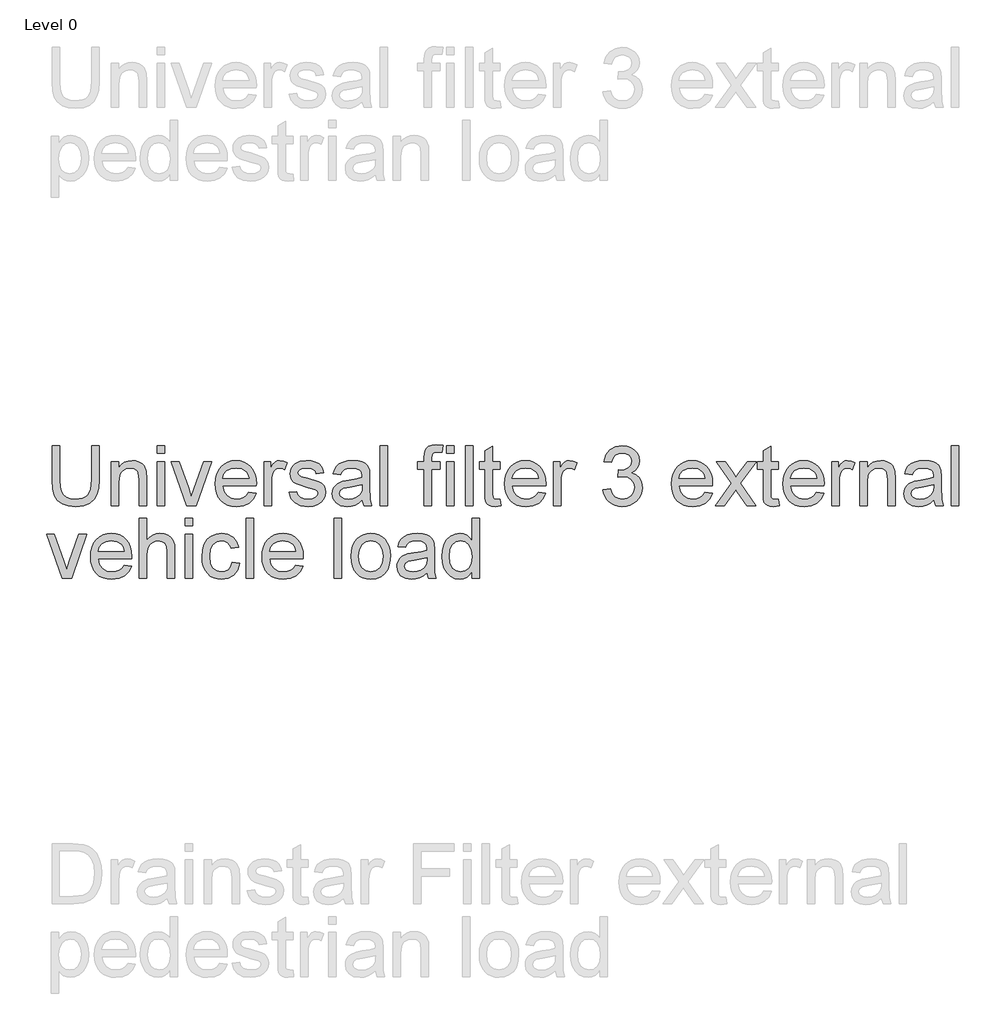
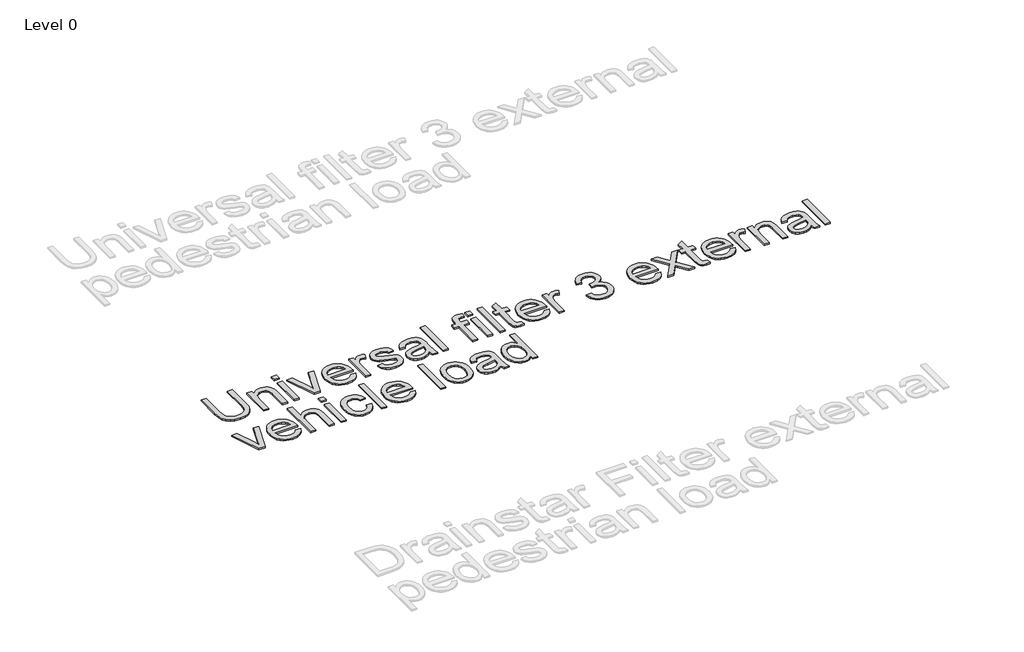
# One storey, part 3 of 10: 1 proxy.
"""IFC4 building model written with IfcOpenShell, lengths in millimetres."""

import ifcopenshell
import ifcopenshell.guid

model = None  # the IFC model being written
_history = None  # IfcOwnerHistory: only IFC2X3 demands one
_inside = {}  # id of a spatial element -> (the spatial element, [elements in it])
_under = {}  # id of a project, library or spatial element -> (it, [spatial elements below it])
_declared = {}  # id of a project -> (the project, [libraries it declares])
_typed = {}  # id of a type object -> (the type object, [elements of that type])
_made_of = {}  # id of a material, layer set ... -> (it, [elements and type objects made of it])


def new_model(schema):
    """Start an empty IFC model of exactly this schema.

    Asked for "IFC4X3", IfcOpenShell would pick the latest addendum, in which some entities
    have other attributes; the version numbers below select the first issue.
    IFC2X3 requires an IfcOwnerHistory on every rooted entity: one is made here for all.
    """
    global model, _history
    if schema == "IFC4X3":
        model = ifcopenshell.file(schema_version=(4, 3, 0, 0))
    else:
        model = ifcopenshell.file(schema=schema)
    _inside.clear()
    _under.clear()
    _declared.clear()
    _typed.clear()
    _made_of.clear()
    _history = None
    if model.schema == "IFC2X3":
        org = make("IfcOrganization", Name="unknown")
        user = make(
            "IfcPersonAndOrganization",
            ThePerson=make("IfcPerson", FamilyName="unknown"),
            TheOrganization=org,
        )
        app = make(
            "IfcApplication",
            ApplicationDeveloper=org,
            Version="unknown",
            ApplicationFullName="unknown",
            ApplicationIdentifier="unknown",
        )
        _history = make(
            "IfcOwnerHistory",
            OwningUser=user,
            OwningApplication=app,
            ChangeAction="ADDED",
            CreationDate=0,
        )
    return model


def make(cls, **values):
    """One entity of the class cls with the attributes given. An attribute that is None is left unset."""
    return model.create_entity(
        cls, **{name: value for name, value in values.items() if value is not None}
    )


def rooted(cls, **values):
    """An entity with a GlobalId (a new one), such as an element, a storey or a relation."""
    return make(cls, GlobalId=ifcopenshell.guid.new(), OwnerHistory=_history, **values)


def si_unit(unit_type, name, prefix=None):
    """IfcSIUnit, for example si_unit("LENGTHUNIT", "METRE", prefix="MILLI")."""
    return make("IfcSIUnit", UnitType=unit_type, Prefix=prefix, Name=name)


def assignment(units):
    """IfcUnitAssignment: the units of a project."""
    return None if units is None else make("IfcUnitAssignment", Units=units)


def point(xyz):
    """IfcCartesianPoint."""
    return None if xyz is None else make("IfcCartesianPoint", Coordinates=xyz)


def direction(xyz):
    """IfcDirection."""
    return None if xyz is None else make("IfcDirection", DirectionRatios=xyz)


def frame(location, z_axis=None, x_axis=None):
    """IfcAxis2Placement3D, a coordinate frame: its origin and axes. An axis left out is left unset."""
    return make(
        "IfcAxis2Placement3D",
        Location=point(location),
        Axis=direction(z_axis),
        RefDirection=direction(x_axis),
    )


def origin():
    """The frame at (0, 0, 0) with its axes left unset."""
    return frame((0.0, 0.0, 0.0))


def origin_with_axes():
    """The frame at (0, 0, 0) with the z axis (0, 0, 1) and the x axis (1, 0, 0) written out."""
    return frame((0.0, 0.0, 0.0), z_axis=(0.0, 0.0, 1.0), x_axis=(1.0, 0.0, 0.0))


def place(relative_to, where):
    """IfcLocalPlacement: puts the frame where relative to a parent placement (None: the world)."""
    return make(
        "IfcLocalPlacement", PlacementRelTo=relative_to, RelativePlacement=where
    )


def context(
    kind, dimensions, precision=None, world=None, true_north=None, identifier=None
):
    """IfcGeometricRepresentationContext, for example the 3D "Model" context."""
    return make(
        "IfcGeometricRepresentationContext",
        ContextIdentifier=identifier,
        ContextType=kind,
        CoordinateSpaceDimension=dimensions,
        Precision=precision,
        WorldCoordinateSystem=world,
        TrueNorth=true_north,
    )


def project(units=None, contexts=None):
    """IfcProject with its units and contexts."""
    return rooted(
        "IfcProject",
        Name="project",
        RepresentationContexts=contexts,
        UnitsInContext=assignment(units),
    )


def spatial(cls, under=None, at=None, **own):
    """A site, building, storey or space (cls), placed at a placement, below another one or the project."""
    s = rooted(cls, ObjectPlacement=at, **own)
    if under is not None:
        _under.setdefault(under.id(), (under, []))[1].append(s)
    return s


def polyline(points):
    """IfcPolyline through the points."""
    return make("IfcPolyline", Points=[point(p) for p in points])


def outline(outer, holes=None, kind="AREA"):
    """IfcArbitraryClosedProfileDef: a profile drawn as a closed curve; with holes, ...WithVoids."""
    if holes is None:
        return make("IfcArbitraryClosedProfileDef", ProfileType=kind, OuterCurve=outer)
    return make(
        "IfcArbitraryProfileDefWithVoids",
        ProfileType=kind,
        OuterCurve=outer,
        InnerCurves=holes,
    )


def extrude(swept, where, along, depth):
    """IfcExtrudedAreaSolid: the profile swept, set in the frame where, extruded along a direction by depth."""
    return make(
        "IfcExtrudedAreaSolid",
        SweptArea=swept,
        Position=where,
        ExtrudedDirection=direction(along),
        Depth=depth,
    )


def shape(context_of_items, identifier, shape_type, items):
    """IfcShapeRepresentation: the items that make up one representation, for example the "Body"."""
    return make(
        "IfcShapeRepresentation",
        ContextOfItems=context_of_items,
        RepresentationIdentifier=identifier,
        RepresentationType=shape_type,
        Items=items,
    )


def made_of(thing, what):
    """Note that an element or type object is made of a material, layer set ...; save() writes the relation."""
    if what is not None:
        _made_of.setdefault(what.id(), (what, []))[1].append(thing)
    return thing


def element(
    cls,
    number,
    at=None,
    inside=None,
    cuts=None,
    type_object=None,
    material=None,
    context=None,
    identifier="Body",
    shape_type=None,
    held_by="IfcProductDefinitionShape",
    body=None,
    shapes=None,
    **own,
):
    """One element of the class cls, such as IfcWall. Its Tag is "e" and its number.

    at: its placement. inside: the storey or other place that contains it. cuts: it is an
    opening in that element (IfcRelVoidsElement). A single representation is given by context,
    identifier, shape_type and body (its items); several are given by shapes. held_by: the class
    of the entity that holds the representations. save() writes the other relations.
    """
    e = rooted(cls, Tag="e%d" % number, ObjectPlacement=at, **own)
    if body is not None:
        shapes = [shape(context, identifier, shape_type, body)]
    if shapes is not None:
        e.Representation = make(held_by, Representations=shapes)
    if inside is not None:
        _inside.setdefault(inside.id(), (inside, []))[1].append(e)
    if cuts is not None:
        rooted(
            "IfcRelVoidsElement", RelatingBuildingElement=cuts, RelatedOpeningElement=e
        )
    if type_object is not None:
        _typed.setdefault(type_object.id(), (type_object, []))[1].append(e)
    return made_of(e, material)


def aggregate(whole, parts):
    """IfcRelAggregates: a whole, such as a stair, and the parts it consists of."""
    return rooted("IfcRelAggregates", RelatingObject=whole, RelatedObjects=parts)


def save(model, path):
    """Write the relations noted so far, then the file.

    IfcRelAggregates (storeys below a building ...), IfcRelContainedInSpatialStructure (elements
    in a storey), IfcRelDefinesByType, IfcRelAssociatesMaterial and IfcRelDeclares: one each for
    every whole, place, type object, material and project.
    """
    for whole, parts in _under.values():
        aggregate(whole, parts)
    for where, things in _inside.values():
        rooted(
            "IfcRelContainedInSpatialStructure",
            RelatedElements=things,
            RelatingStructure=where,
        )
    for kind, things in _typed.values():
        rooted("IfcRelDefinesByType", RelatedObjects=things, RelatingType=kind)
    for what, things in _made_of.values():
        rooted("IfcRelAssociatesMaterial", RelatedObjects=things, RelatingMaterial=what)
    for by, libraries in _declared.values():
        rooted("IfcRelDeclares", RelatingContext=by, RelatedDefinitions=libraries)
    model.write(path)


model = new_model("IFC4")

# Units and contexts
model_context = context("Model", 3, world=origin())
ifc_project = project(units=[si_unit("LENGTHUNIT", "METRE", prefix="MILLI")], contexts=[model_context])

# Site, building, storey
site = spatial("IfcSite", under=ifc_project)
building = spatial("IfcBuilding", under=site)
storey = spatial("IfcBuildingStorey", under=building, Name="Level 0", Elevation=0.0)

# Proxy
placement = place(None, origin())
element("IfcBuildingElementProxy", 1, Name="300mm Arial", ObjectType="300mm Arial", at=placement, inside=storey, context=model_context, shape_type="SweptSolid", body=[
    extrude(outline(polyline([(-15184.5419373, 4728.4409706), (-15146.870821, 4728.4409706), (-15146.870821, 4554.5799397), (-15149.4276009, 4513.8645999), (-15157.0979405, 4482.5118569), (-15171.4269442, 4458.3236157), (-15193.9597164, 4439.1017814), (-15224.7514394, 4426.5478084), (-15263.8572955, 4422.3631507), (-15302.1078259, 4426.0051824), (-15332.6880168, 4436.9312777), (-15355.6070651, 4454.7643574), (-15370.8741679, 4479.1273425), (-15379.4550154, 4511.8044607), (-15382.3152979, 4554.5799397), (-15382.3152979, 4728.4409706), (-15344.6441816, 4728.4409706), (-15344.6441816, 4555.9043149), (-15342.7863776, 4522.0499743), (-15337.2129653, 4498.4779355), (-15327.1146046, 4482.1531719), (-15311.6819549, 4470.0406572), (-15291.5588097, 4462.5358645), (-15267.3889627, 4460.034267), (-15229.0740529, 4464.9822798), (-15214.7312536, 4471.1672958), (-15203.5982247, 4479.8263183), (-15195.261099, 4492.0032123), (-15189.3060092, 4508.7418431), (-15184.5419373, 4555.9043149), (-15184.5419373, 4728.4409706)])), origin_with_axes(), (0.0, 0.0, 1.0), 10.0),
    extrude(outline(polyline([(-15085.655257, 4427.0720402), (-15085.655257, 4648.3898485), (-15047.9841407, 4648.3898485), (-15047.9841407, 4617.4877609), (-15034.8967388, 4633.0675634), (-15019.1789805, 4644.1959938), (-15000.830866, 4650.873052), (-14979.8523952, 4653.098738), (-14961.2835515, 4651.3053133), (-14944.2782063, 4645.9250391), (-14930.0963554, 4637.6293001), (-14919.9979946, 4627.089481), (-14908.7040174, 4599.3879667), (-14906.7174546, 4562.9676492), (-14906.7174546, 4427.0720402), (-14944.3885709, 4427.0720402), (-14944.3885709, 4557.8908777), (-14948.7295784, 4591.2209864), (-14954.735252, 4601.1446033), (-14964.0702576, 4608.842534), (-14976.0356195, 4613.7813498), (-14989.9323619, 4615.4276217), (-15011.9960846, 4611.7304077), (-15030.8040516, 4600.6387655), (-15038.3203406, 4591.5842699), (-15043.6891184, 4579.2096393), (-15047.9841407, 4544.4999731), (-15047.9841407, 4427.0720402), (-15085.655257, 4427.0720402)])), origin_with_axes(), (0.0, 0.0, 1.0), 10.0),
    extrude(outline(polyline([(-14854.9196697, 4690.7698543), (-14854.9196697, 4728.4409706), (-14817.2485534, 4728.4409706), (-14817.2485534, 4690.7698543), (-14854.9196697, 4690.7698543)])), origin_with_axes(), (0.0, 0.0, 1.0), 10.0),
    extrude(outline(polyline([(-14854.9196697, 4427.0720402), (-14854.9196697, 4648.3898485), (-14817.2485534, 4648.3898485), (-14817.2485534, 4427.0720402), (-14854.9196697, 4427.0720402)])), origin_with_axes(), (0.0, 0.0, 1.0), 10.0),
    extrude(outline(polyline([(-14706.4424964, 4427.0720402), (-14784.2863266, 4648.3898485), (-14744.4079183, 4648.3898485), (-14697.2454465, 4515.8051774), (-14683.0452015, 4471.2178796), (-14669.1392621, 4513.3035799), (-14621.6824847, 4648.3898485), (-14581.8040764, 4648.3898485), (-14658.6914134, 4427.0720402), (-14706.4424964, 4427.0720402)])), origin_with_axes(), (0.0, 0.0, 1.0), 10.0),
    extrude(outline(polyline([(-14393.8899533, 4492.9964937), (-14356.954601, 4488.2876042), (-14370.2627322, 4460.4573313), (-14391.4987203, 4439.6536044), (-14420.1843189, 4426.6857641), (-14455.8412813, 4422.3631507), (-14479.2155836, 4424.2278525), (-14500.042303, 4429.8219581), (-14518.3214397, 4439.1454674), (-14534.0529935, 4452.1983805), (-14546.7035356, 4468.6174138), (-14555.7396371, 4488.0392838), (-14561.161298, 4510.4639907), (-14562.9685183, 4535.8915344), (-14561.1429039, 4562.1813015), (-14555.6660607, 4585.3532686), (-14546.5379887, 4605.4074359), (-14533.7586879, 4622.3438032), (-14518.0685208, 4635.7990872), (-14500.2078499, 4645.4100043), (-14480.1766753, 4651.1765546), (-14457.9749969, 4653.098738), (-14436.4883891, 4651.1811531), (-14417.057322, 4645.4283984), (-14399.6817955, 4635.8404739), (-14384.3618096, 4622.4173796), (-14371.8561211, 4605.5178005), (-14362.9234864, 4585.5004214), (-14357.5639055, 4562.3652424), (-14355.7773786, 4536.1122636), (-14355.9981078, 4525.9587205), (-14525.297402, 4525.9587205), (-14518.7766936, 4497.7605656), (-14503.6291525, 4477.0304151), (-14481.7677649, 4464.283304), (-14455.1055173, 4460.034267), (-14435.0559486, 4462.0024356), (-14418.170165, 4467.9069417), (-14404.4481666, 4478.115667), (-14393.8899533, 4492.9964937)]), holes=[polyline([(-14525.297402, 4563.6298368), (-14393.4484949, 4563.6298368), (-14398.5436605, 4583.5322527), (-14408.5316567, 4597.769286), (-14430.4942118, 4611.0130378), (-14458.1221497, 4615.4276217), (-14483.5152044, 4611.9051516), (-14504.5120693, 4601.3377413), (-14519.1077874, 4584.865825), (-14525.297402, 4563.6298368)])]), origin_with_axes(), (0.0, 0.0, 1.0), 10.0),
    extrude(outline(polyline([(-14318.1062623, 4427.0720402), (-14318.1062623, 4648.3898485), (-14285.1440355, 4648.3898485), (-14285.1440355, 4615.6483509), (-14272.9671415, 4634.6310619), (-14261.7467406, 4645.8146745), (-14250.4895516, 4651.2777222), (-14238.2022929, 4653.098738), (-14219.4403112, 4650.1924703), (-14200.3840238, 4641.473667), (-14212.9655881, 4607.7020998), (-14226.2093399, 4613.4962413), (-14239.4530917, 4615.4276217), (-14250.7010837, 4613.5698177), (-14260.7534593, 4607.9964054), (-14268.8744543, 4599.1304493), (-14274.3283049, 4587.3950137), (-14278.9084357, 4566.3521636), (-14280.435146, 4543.3963271), (-14280.435146, 4427.0720402), (-14318.1062623, 4427.0720402)])), origin_with_axes(), (0.0, 0.0, 1.0), 10.0),
    extrude(outline(polyline([(-14190.9662448, 4492.9964937), (-14153.2951285, 4497.7053833), (-14147.3538342, 4481.5921519), (-14135.8575219, 4469.7463516), (-14118.732615, 4462.4622881), (-14095.9055372, 4460.034267), (-14073.3543709, 4462.259953), (-14057.4986569, 4468.9370112), (-14048.117666, 4478.6123077), (-14044.9906691, 4489.8327086), (-14048.1360601, 4499.4344286), (-14057.5722333, 4506.7552804), (-14096.3469956, 4517.4974346), (-14153.0743993, 4535.9283226), (-14167.4309941, 4545.1897518), (-14177.8328575, 4557.4494193), (-14184.1512308, 4571.9255758), (-14186.2573552, 4587.8364721), (-14184.5650981, 4602.4321902), (-14179.4883265, 4615.9058683), (-14171.4868931, 4627.7240774), (-14161.0206504, 4637.3533886), (-14137.0715325, 4648.5002131), (-14104.6611287, 4653.098738), (-14080.1417937, 4651.250131), (-14058.8230321, 4645.7043099), (-14041.6797311, 4637.0039007), (-14029.6867781, 4625.6915294), (-14021.740527, 4610.9302643), (-14016.7373319, 4591.883174), (-14054.4084482, 4587.1742845), (-14059.1633229, 4599.0292818), (-14068.571905, 4607.9596172), (-14082.7261647, 4613.5606206), (-14101.7180727, 4615.4276217), (-14123.3495341, 4613.6433941), (-14137.7705083, 4608.290711), (-14145.8823063, 4600.5651891), (-14148.5862389, 4591.6624448), (-14144.0980786, 4580.6995614), (-14130.0449864, 4572.3854283), (-14097.5977944, 4564.3656008), (-14042.3051305, 4546.6336886), (-14027.7002153, 4538.1540086), (-14016.6269673, 4526.5473317), (-14009.6464064, 4511.7768696), (-14007.3195528, 4493.8058341), (-14010.0510766, 4475.2277934), (-14018.245648, 4457.7533986), (-14031.5905674, 4442.7530102), (-14049.773135, 4431.5969887), (-14071.7356901, 4424.6716102), (-14096.420572, 4422.3631507), (-14134.404388, 4426.8145228), (-14162.1242963, 4440.1686392), (-14180.6287607, 4462.2783471), (-14190.9662448, 4492.9964937)])), origin_with_axes(), (0.0, 0.0, 1.0), 10.0),
    extrude(outline(polyline([(-13823.6728608, 4455.3253774), (-13841.6714874, 4439.8927277), (-13860.2035429, 4429.794367), (-13879.6920916, 4424.2209547), (-13900.5601978, 4422.3631507), (-13932.0416995, 4426.8329169), (-13955.2642505, 4440.2422156), (-13969.5840571, 4460.6044841), (-13974.357326, 4485.9331594), (-13972.5547042, 4501.5497501), (-13967.1468389, 4515.731601), (-13958.8051147, 4527.8717069), (-13948.2009161, 4537.3630624), (-13921.8237771, 4549.7238974), (-13889.2294323, 4555.3892801), (-13850.7121874, 4561.3489684), (-13823.89359, 4568.3387263), (-13823.6728608, 4576.7264358), (-13826.2664288, 4593.538643), (-13834.047133, 4604.5383147), (-13851.4479514, 4612.705295), (-13875.6913749, 4615.4276217), (-13898.1321766, 4613.6158029), (-13913.8039496, 4608.1803464), (-13924.4909216, 4598.1279709), (-13931.9773202, 4582.465395), (-13969.6484365, 4587.1742845), (-13963.109334, 4607.7756762), (-13953.3512641, 4623.962484), (-13939.4637188, 4636.3417132), (-13920.5361901, 4645.5203689), (-13897.3872156, 4651.2041458), (-13870.8353326, 4653.098738), (-13845.3687014, 4651.424875), (-13825.181177, 4646.4032857), (-13809.9600594, 4638.8525078), (-13799.3926491, 4629.5910785), (-13792.3844971, 4618.1407514), (-13787.8411545, 4604.0232799), (-13786.0017445, 4571.0610531), (-13786.0017445, 4524.1928869), (-13784.0887581, 4458.74668), (-13776.5839654, 4427.0720402), (-13814.2550817, 4427.0720402), (-13823.6728608, 4455.3253774)]), holes=[polyline([(-13823.6728608, 4530.66761), (-13884.4469664, 4519.1161154), (-13916.8573702, 4513.0092743), (-13931.5358618, 4503.0764604), (-13936.6862097, 4488.5819098), (-13933.8811095, 4477.379903), (-13925.4658088, 4468.2012473), (-13911.6242488, 4462.076012), (-13892.5403703, 4460.034267), (-13872.3068605, 4462.2875442), (-13854.4277956, 4469.0473758), (-13839.933245, 4479.0077809), (-13829.8532783, 4490.8627782), (-13825.3835121, 4503.0764604), (-13823.89359, 4519.9990322), (-13823.6728608, 4530.66761)])]), origin_with_axes(), (0.0, 0.0, 1.0), 10.0),
    extrude(outline(polyline([(-13734.2039596, 4427.0720402), (-13734.2039596, 4728.4409706), (-13696.5328432, 4728.4409706), (-13696.5328432, 4427.0720402), (-13734.2039596, 4427.0720402)])), origin_with_axes(), (0.0, 0.0, 1.0), 10.0),
    extrude(outline(polyline([(-13512.8861513, 4427.0720402), (-13512.8861513, 4610.7187322), (-13545.848378, 4610.7187322), (-13545.848378, 4648.3898485), (-13512.8861513, 4648.3898485), (-13512.8861513, 4670.6834974), (-13508.9130257, 4702.1006198), (-13501.3346566, 4714.6270017), (-13489.6360092, 4724.5414215), (-13473.2652604, 4730.9977505), (-13451.6705873, 4733.1498602), (-13417.3104089, 4729.0295818), (-13422.8286388, 4693.7129103), (-13444.5336766, 4695.4787439), (-13458.8534832, 4693.9152454), (-13468.2620652, 4689.22475), (-13473.4767925, 4680.2668234), (-13475.215035, 4665.9010315), (-13475.215035, 4648.3898485), (-13432.8350291, 4648.3898485), (-13432.8350291, 4610.7187322), (-13475.215035, 4610.7187322), (-13475.215035, 4427.0720402), (-13512.8861513, 4427.0720402)])), origin_with_axes(), (0.0, 0.0, 1.0), 10.0),
    extrude(outline(polyline([(-13399.8728023, 4427.0720402), (-13399.8728023, 4648.3898485), (-13362.201686, 4648.3898485), (-13362.201686, 4427.0720402), (-13399.8728023, 4427.0720402)])), origin_with_axes(), (0.0, 0.0, 1.0), 10.0),
    extrude(outline(polyline([(-13399.8728023, 4690.7698543), (-13399.8728023, 4728.4409706), (-13362.201686, 4728.4409706), (-13362.201686, 4690.7698543), (-13399.8728023, 4690.7698543)])), origin_with_axes(), (0.0, 0.0, 1.0), 10.0),
    extrude(outline(polyline([(-13305.6950116, 4427.0720402), (-13305.6950116, 4728.4409706), (-13268.0238953, 4728.4409706), (-13268.0238953, 4427.0720402), (-13305.6950116, 4427.0720402)])), origin_with_axes(), (0.0, 0.0, 1.0), 10.0),
    extrude(outline(polyline([(-13131.4660987, 4458.4891626), (-13126.7572091, 4425.9683942), (-13154.93697, 4422.3631507), (-13173.01837, 4423.9266491), (-13186.5012451, 4428.6171446), (-13196.0293888, 4435.8460258), (-13202.2465945, 4445.0246816), (-13205.6678971, 4460.7884251), (-13206.8083313, 4487.7725694), (-13206.8083313, 4610.7187322), (-13235.0616685, 4610.7187322), (-13235.0616685, 4648.3898485), (-13206.8083313, 4648.3898485), (-13206.8083313, 4702.1741962), (-13169.137215, 4724.3206923), (-13169.137215, 4648.3898485), (-13131.4660987, 4648.3898485), (-13131.4660987, 4610.7187322), (-13169.137215, 4610.7187322), (-13169.137215, 4488.8762154), (-13167.1506522, 4469.452046), (-13160.7127173, 4462.5726527), (-13147.8736356, 4460.034267), (-13131.4660987, 4458.4891626)])), origin_with_axes(), (0.0, 0.0, 1.0), 10.0),
    extrude(outline(polyline([(-12938.843086, 4492.9964937), (-12901.9077337, 4488.2876042), (-12915.2158648, 4460.4573313), (-12936.451853, 4439.6536044), (-12965.1374516, 4426.6857641), (-13000.794414, 4422.3631507), (-13024.1687162, 4424.2278525), (-13044.9954357, 4429.8219581), (-13063.2745723, 4439.1454674), (-13079.0061261, 4452.1983805), (-13091.6566683, 4468.6174138), (-13100.6927698, 4488.0392838), (-13106.1144307, 4510.4639907), (-13107.921651, 4535.8915344), (-13106.0960366, 4562.1813015), (-13100.6191934, 4585.3532686), (-13091.4911214, 4605.4074359), (-13078.7118205, 4622.3438032), (-13063.0216535, 4635.7990872), (-13045.1609826, 4645.4100043), (-13025.129808, 4651.1765546), (-13002.9281295, 4653.098738), (-12981.4415218, 4651.1811531), (-12962.0104546, 4645.4283984), (-12944.6349281, 4635.8404739), (-12929.3149423, 4622.4173796), (-12916.8092537, 4605.5178005), (-12907.876619, 4585.5004214), (-12902.5170382, 4562.3652424), (-12900.7305113, 4536.1122636), (-12900.9512405, 4525.9587205), (-13070.2505347, 4525.9587205), (-13063.7298263, 4497.7605656), (-13048.5822851, 4477.0304151), (-13026.7208976, 4464.283304), (-13000.05865, 4460.034267), (-12980.0090812, 4462.0024356), (-12963.1232977, 4467.9069417), (-12949.4012992, 4478.115667), (-12938.843086, 4492.9964937)]), holes=[polyline([(-13070.2505347, 4563.6298368), (-12938.4016276, 4563.6298368), (-12943.4967932, 4583.5322527), (-12953.4847894, 4597.769286), (-12975.4473445, 4611.0130378), (-13003.0752823, 4615.4276217), (-13028.4683371, 4611.9051516), (-13049.4652019, 4601.3377413), (-13064.0609201, 4584.865825), (-13070.2505347, 4563.6298368)])]), origin_with_axes(), (0.0, 0.0, 1.0), 10.0),
    extrude(outline(polyline([(-12863.059395, 4427.0720402), (-12863.059395, 4648.3898485), (-12830.0971682, 4648.3898485), (-12830.0971682, 4615.6483509), (-12817.9202742, 4634.6310619), (-12806.6998733, 4645.8146745), (-12795.4426843, 4651.2777222), (-12783.1554256, 4653.098738), (-12764.3934439, 4650.1924703), (-12745.3371565, 4641.473667), (-12757.9187208, 4607.7020998), (-12771.1624726, 4613.4962413), (-12784.4062244, 4615.4276217), (-12795.6542164, 4613.5698177), (-12805.7065919, 4607.9964054), (-12813.827587, 4599.1304493), (-12819.2814376, 4587.3950137), (-12823.8615684, 4566.3521636), (-12825.3882787, 4543.3963271), (-12825.3882787, 4427.0720402), (-12863.059395, 4427.0720402)])), origin_with_axes(), (0.0, 0.0, 1.0), 10.0),
    extrude(outline(polyline([(-12613.4882494, 4507.1231623), (-12575.8171331, 4511.8320519), (-12567.3834384, 4488.1588455), (-12555.0318004, 4472.1743728), (-12538.1552139, 4463.0692934), (-12516.1466735, 4460.034267), (-12490.3213575, 4464.2097276), (-12470.3821533, 4476.7361095), (-12457.6350422, 4495.4245149), (-12453.3860051, 4518.0860458), (-12457.598254, 4539.5979455), (-12470.2350005, 4557.0447491), (-12489.3648643, 4568.6054408), (-12513.0564648, 4572.4590047), (-12539.470392, 4568.3387263), (-12535.2765373, 4606.0098427), (-12529.2432726, 4605.5683843), (-12506.6737121, 4608.2723169), (-12486.4953847, 4616.3841149), (-12472.2583515, 4630.1061133), (-12467.5126738, 4649.6406473), (-12470.9523704, 4665.9102285), (-12481.2714604, 4679.1079951), (-12497.0168098, 4687.8543895), (-12516.7352847, 4690.7698543), (-12536.4905479, 4687.8267984), (-12552.6405674, 4678.9976305), (-12564.4311854, 4664.2823507), (-12571.1082436, 4643.680959), (-12608.7793599, 4648.3898485), (-12597.6877178, 4682.216598), (-12577.9508487, 4707.4716969), (-12550.9483103, 4723.1986522), (-12518.0596599, 4728.4409706), (-12494.3772565, 4725.8565996), (-12472.6262335, 4718.1034866), (-12454.287316, 4705.8714102), (-12440.8412291, 4689.8501494), (-12432.5914754, 4671.3916702), (-12429.8415575, 4651.8479393), (-12432.4535196, 4633.6377805), (-12440.2894061, 4617.1198789), (-12453.2388524, 4603.0483926), (-12471.1914937, 4592.1774796), (-12447.6102578, 4582.649336), (-12430.1358631, 4566.42574), (-12419.3201324, 4544.3896085), (-12415.7148888, 4517.4238582), (-12417.5175106, 4498.3123886), (-12422.9253759, 4480.7092351), (-12431.9384848, 4464.6143978), (-12444.5568373, 4450.0278767), (-12459.9297061, 4437.9245591), (-12477.2063643, 4429.2793322), (-12496.3868119, 4424.092196), (-12517.4710487, 4422.3631507), (-12536.5273361, 4423.8392772), (-12553.8913662, 4428.2676567), (-12569.5631392, 4435.6482892), (-12583.542655, 4445.9811747), (-12595.2642951, 4458.659308), (-12604.1624409, 4473.0756837), (-12610.2370923, 4489.2303018), (-12613.4882494, 4507.1231623)])), origin_with_axes(), (0.0, 0.0, 1.0), 10.0),
    extrude(outline(polyline([(-12100.6607482, 4492.9964937), (-12063.7253959, 4488.2876042), (-12077.033527, 4460.4573313), (-12098.2695152, 4439.6536044), (-12126.9551138, 4426.6857641), (-12162.6120762, 4422.3631507), (-12185.9863784, 4424.2278525), (-12206.8130979, 4429.8219581), (-12225.0922345, 4439.1454674), (-12240.8237883, 4452.1983805), (-12253.4743304, 4468.6174138), (-12262.510432, 4488.0392838), (-12267.9320929, 4510.4639907), (-12269.7393132, 4535.8915344), (-12267.9136988, 4562.1813015), (-12262.4368556, 4585.3532686), (-12253.3087835, 4605.4074359), (-12240.5294827, 4622.3438032), (-12224.8393156, 4635.7990872), (-12206.9786448, 4645.4100043), (-12186.9474701, 4651.1765546), (-12164.7457917, 4653.098738), (-12143.259184, 4651.1811531), (-12123.8281168, 4645.4283984), (-12106.4525903, 4635.8404739), (-12091.1326045, 4622.4173796), (-12078.6269159, 4605.5178005), (-12069.6942812, 4585.5004214), (-12064.3347004, 4562.3652424), (-12062.5481735, 4536.1122636), (-12062.7689027, 4525.9587205), (-12232.0681968, 4525.9587205), (-12225.5474885, 4497.7605656), (-12210.3999473, 4477.0304151), (-12188.5385598, 4464.283304), (-12161.8763122, 4460.034267), (-12141.8267434, 4462.0024356), (-12124.9409599, 4467.9069417), (-12111.2189614, 4478.115667), (-12100.6607482, 4492.9964937)]), holes=[polyline([(-12232.0681968, 4563.6298368), (-12100.2192898, 4563.6298368), (-12105.3144554, 4583.5322527), (-12115.3024516, 4597.769286), (-12137.2650067, 4611.0130378), (-12164.8929445, 4615.4276217), (-12190.2859992, 4611.9051516), (-12211.2828641, 4601.3377413), (-12225.8785823, 4584.865825), (-12232.0681968, 4563.6298368)])]), origin_with_axes(), (0.0, 0.0, 1.0), 10.0),
    extrude(outline(polyline([(-12048.4215049, 4427.0720402), (-11967.9289243, 4538.3195555), (-12043.7126153, 4648.3898485), (-11998.3895535, 4648.3898485), (-11961.8220832, 4595.4148412), (-11944.7523586, 4570.3988655), (-11929.9635024, 4590.8531045), (-11888.3192606, 4648.3898485), (-11842.9961988, 4648.3898485), (-11922.6058625, 4538.3195555), (-11845.9392547, 4427.0720402), (-11891.2623165, 4427.0720402), (-11937.3947187, 4493.9529869), (-11945.8560046, 4506.1666692), (-12003.0984431, 4427.0720402), (-12048.4215049, 4427.0720402)])), origin_with_axes(), (0.0, 0.0, 1.0), 10.0),
    extrude(outline(polyline([(-11732.9259058, 4458.4891626), (-11728.2170163, 4425.9683942), (-11756.3967771, 4422.3631507), (-11774.4781771, 4423.9266491), (-11787.9610523, 4428.6171446), (-11797.4891959, 4435.8460258), (-11803.7064017, 4445.0246816), (-11807.1277042, 4460.7884251), (-11808.2681384, 4487.7725694), (-11808.2681384, 4610.7187322), (-11836.5214756, 4610.7187322), (-11836.5214756, 4648.3898485), (-11808.2681384, 4648.3898485), (-11808.2681384, 4702.1741962), (-11770.5970221, 4724.3206923), (-11770.5970221, 4648.3898485), (-11732.9259058, 4648.3898485), (-11732.9259058, 4610.7187322), (-11770.5970221, 4610.7187322), (-11770.5970221, 4488.8762154), (-11768.6104593, 4469.452046), (-11762.1725244, 4462.5726527), (-11749.3334428, 4460.034267), (-11732.9259058, 4458.4891626)])), origin_with_axes(), (0.0, 0.0, 1.0), 10.0),
    extrude(outline(polyline([(-11540.3028931, 4492.9964937), (-11503.3675408, 4488.2876042), (-11516.675672, 4460.4573313), (-11537.9116602, 4439.6536044), (-11566.5972587, 4426.6857641), (-11602.2542211, 4422.3631507), (-11625.6285234, 4424.2278525), (-11646.4552428, 4429.8219581), (-11664.7343795, 4439.1454674), (-11680.4659333, 4452.1983805), (-11693.1164754, 4468.6174138), (-11702.1525769, 4488.0392838), (-11707.5742378, 4510.4639907), (-11709.3814581, 4535.8915344), (-11707.5558437, 4562.1813015), (-11702.0790005, 4585.3532686), (-11692.9509285, 4605.4074359), (-11680.1716277, 4622.3438032), (-11664.4814606, 4635.7990872), (-11646.6207897, 4645.4100043), (-11626.5896151, 4651.1765546), (-11604.3879367, 4653.098738), (-11582.9013289, 4651.1811531), (-11563.4702618, 4645.4283984), (-11546.0947353, 4635.8404739), (-11530.7747494, 4622.4173796), (-11518.2690609, 4605.5178005), (-11509.3364262, 4585.5004214), (-11503.9768454, 4562.3652424), (-11502.1903184, 4536.1122636), (-11502.4110476, 4525.9587205), (-11671.7103418, 4525.9587205), (-11665.1896334, 4497.7605656), (-11650.0420923, 4477.0304151), (-11628.1807047, 4464.283304), (-11601.5184571, 4460.034267), (-11581.4688884, 4462.0024356), (-11564.5831048, 4467.9069417), (-11550.8611064, 4478.115667), (-11540.3028931, 4492.9964937)]), holes=[polyline([(-11671.7103418, 4563.6298368), (-11539.8614347, 4563.6298368), (-11544.9566004, 4583.5322527), (-11554.9445965, 4597.769286), (-11576.9071516, 4611.0130378), (-11604.5350895, 4615.4276217), (-11629.9281442, 4611.9051516), (-11650.9250091, 4601.3377413), (-11665.5207272, 4584.865825), (-11671.7103418, 4563.6298368)])]), origin_with_axes(), (0.0, 0.0, 1.0), 10.0),
    extrude(outline(polyline([(-11464.5192021, 4427.0720402), (-11464.5192021, 4648.3898485), (-11431.5569753, 4648.3898485), (-11431.5569753, 4615.6483509), (-11419.3800813, 4634.6310619), (-11408.1596805, 4645.8146745), (-11396.9024914, 4651.2777222), (-11384.6152328, 4653.098738), (-11365.853251, 4650.1924703), (-11346.7969637, 4641.473667), (-11359.3785279, 4607.7020998), (-11372.6222797, 4613.4962413), (-11385.8660315, 4615.4276217), (-11397.1140235, 4613.5698177), (-11407.1663991, 4607.9964054), (-11415.2873941, 4599.1304493), (-11420.7412447, 4587.3950137), (-11425.3213755, 4566.3521636), (-11426.8480858, 4543.3963271), (-11426.8480858, 4427.0720402), (-11464.5192021, 4427.0720402)])), origin_with_axes(), (0.0, 0.0, 1.0), 10.0),
    extrude(outline(polyline([(-11323.252516, 4427.0720402), (-11323.252516, 4648.3898485), (-11285.5813997, 4648.3898485), (-11285.5813997, 4617.4877609), (-11272.4939977, 4633.0675634), (-11256.7762394, 4644.1959938), (-11238.4281249, 4650.873052), (-11217.4496542, 4653.098738), (-11198.8808104, 4651.3053133), (-11181.8754652, 4645.9250391), (-11167.6936143, 4637.6293001), (-11157.5952535, 4627.089481), (-11146.3012763, 4599.3879667), (-11144.3147135, 4562.9676492), (-11144.3147135, 4427.0720402), (-11181.9858298, 4427.0720402), (-11181.9858298, 4557.8908777), (-11186.3268374, 4591.2209864), (-11192.3325109, 4601.1446033), (-11201.6675166, 4608.842534), (-11213.6328785, 4613.7813498), (-11227.5296208, 4615.4276217), (-11249.5933435, 4611.7304077), (-11268.4013105, 4600.6387655), (-11275.9175995, 4591.5842699), (-11281.2863774, 4579.2096393), (-11285.5813997, 4544.4999731), (-11285.5813997, 4427.0720402), (-11323.252516, 4427.0720402)])), origin_with_axes(), (0.0, 0.0, 1.0), 10.0),
    extrude(outline(polyline([(-10951.2502424, 4455.3253774), (-10969.2488691, 4439.8927277), (-10987.7809246, 4429.794367), (-11007.2694733, 4424.2209547), (-11028.1375794, 4422.3631507), (-11059.6190812, 4426.8329169), (-11082.8416321, 4440.2422156), (-11097.1614388, 4460.6044841), (-11101.9347077, 4485.9331594), (-11100.1320859, 4501.5497501), (-11094.7242206, 4515.731601), (-11086.3824963, 4527.8717069), (-11075.7782978, 4537.3630624), (-11049.4011588, 4549.7238974), (-11016.806814, 4555.3892801), (-10978.2895691, 4561.3489684), (-10951.4709716, 4568.3387263), (-10951.2502424, 4576.7264358), (-10953.8438105, 4593.538643), (-10961.6245147, 4604.5383147), (-10979.0253331, 4612.705295), (-11003.2687566, 4615.4276217), (-11025.7095583, 4613.6158029), (-11041.3813313, 4608.1803464), (-11052.0683032, 4598.1279709), (-11059.5547018, 4582.465395), (-11097.2258181, 4587.1742845), (-11090.6867157, 4607.7756762), (-11080.9286457, 4623.962484), (-11067.0411004, 4636.3417132), (-11048.1135718, 4645.5203689), (-11024.9645972, 4651.2041458), (-10998.4127142, 4653.098738), (-10972.9460831, 4651.424875), (-10952.7585586, 4646.4032857), (-10937.5374411, 4638.8525078), (-10926.9700308, 4629.5910785), (-10919.9618788, 4618.1407514), (-10915.4185361, 4604.0232799), (-10913.5791261, 4571.0610531), (-10913.5791261, 4524.1928869), (-10911.6661398, 4458.74668), (-10904.1613471, 4427.0720402), (-10941.8324634, 4427.0720402), (-10951.2502424, 4455.3253774)]), holes=[polyline([(-10951.2502424, 4530.66761), (-11012.024348, 4519.1161154), (-11044.4347518, 4513.0092743), (-11059.1132434, 4503.0764604), (-11064.2635914, 4488.5819098), (-11061.4584911, 4477.379903), (-11053.0431905, 4468.2012473), (-11039.2016304, 4462.076012), (-11020.1177519, 4460.034267), (-10999.8842422, 4462.2875442), (-10982.0051772, 4469.0473758), (-10967.5106266, 4479.0077809), (-10957.43066, 4490.8627782), (-10952.9608937, 4503.0764604), (-10951.4709716, 4519.9990322), (-10951.2502424, 4530.66761)])]), origin_with_axes(), (0.0, 0.0, 1.0), 10.0),
    extrude(outline(polyline([(-10861.7813412, 4427.0720402), (-10861.7813412, 4728.4409706), (-10824.1102249, 4728.4409706), (-10824.1102249, 4427.0720402), (-10861.7813412, 4427.0720402)])), origin_with_axes(), (0.0, 0.0, 1.0), 10.0),
    extrude(outline(polyline([(-15332.724805, 4061.1475867), (-15410.5686352, 4282.465395), (-15370.6902269, 4282.465395), (-15323.5277551, 4149.8807239), (-15309.3275101, 4105.2934261), (-15295.4215707, 4147.3791263), (-15247.9647933, 4282.465395), (-15208.086385, 4282.465395), (-15284.973722, 4061.1475867), (-15332.724805, 4061.1475867)])), origin_with_axes(), (0.0, 0.0, 1.0), 10.0),
    extrude(outline(polyline([(-15020.1722619, 4127.0720402), (-14983.2369096, 4122.3631507), (-14996.5450408, 4094.5328777), (-15017.7810289, 4073.7291509), (-15046.4666275, 4060.7613106), (-15082.1235899, 4056.4386971), (-15105.4978922, 4058.303399), (-15126.3246116, 4063.8975046), (-15144.6037482, 4073.2210139), (-15160.3353021, 4086.2739269), (-15172.9858442, 4102.6929602), (-15182.0219457, 4122.1148303), (-15187.4436066, 4144.5395372), (-15189.2508269, 4169.9670808), (-15187.4252125, 4196.2568479), (-15181.9483693, 4219.4288151), (-15172.8202973, 4239.4829823), (-15160.0409965, 4256.4193497), (-15144.3508294, 4269.8746337), (-15126.4901585, 4279.4855508), (-15106.4589839, 4285.2521011), (-15084.2573055, 4287.1742845), (-15062.7706977, 4285.2566996), (-15043.3396305, 4279.5039449), (-15025.9641041, 4269.9160204), (-15010.6441182, 4256.4929261), (-14998.1384296, 4239.5933469), (-14989.205795, 4219.5759679), (-14983.8462141, 4196.4407889), (-14982.0596872, 4170.18781), (-14982.2804164, 4160.034267), (-15151.5797106, 4160.034267), (-15145.0590022, 4131.836112), (-15129.9114611, 4111.1059616), (-15108.0500735, 4098.3588505), (-15081.3878259, 4094.1098134), (-15061.3382572, 4096.0779821), (-15044.4524736, 4101.9824881), (-15030.7304752, 4112.1912135), (-15020.1722619, 4127.0720402)]), holes=[polyline([(-15151.5797106, 4197.7053833), (-15019.7308035, 4197.7053833), (-15024.8259691, 4217.6077992), (-15034.8139653, 4231.8448324), (-15056.7765204, 4245.0885843), (-15084.4044583, 4249.5031682), (-15109.797513, 4245.9806981), (-15130.7943778, 4235.4132878), (-15145.390096, 4218.9413714), (-15151.5797106, 4197.7053833)])]), origin_with_axes(), (0.0, 0.0, 1.0), 10.0),
    extrude(outline(polyline([(-14944.3885709, 4061.1475867), (-14944.3885709, 4362.5165171), (-14906.7174546, 4362.5165171), (-14906.7174546, 4251.7104602), (-14892.880493, 4267.2258833), (-14877.3420773, 4278.3083284), (-14860.1022073, 4284.9577955), (-14841.160883, 4287.1742845), (-14818.4073816, 4284.7554604), (-14798.8544536, 4277.498988), (-14783.4585921, 4265.9750845), (-14773.1762903, 4250.753967), (-14767.3821489, 4229.8398755), (-14765.4507684, 4201.2370504), (-14765.4507684, 4061.1475867), (-14803.1218847, 4061.1475867), (-14803.1218847, 4197.3375013), (-14806.120123, 4220.9187372), (-14815.1148378, 4237.0687568), (-14829.6093884, 4246.3945653), (-14849.1071341, 4249.5031682), (-14865.0272275, 4247.4062408), (-14879.9724335, 4241.1154587), (-14892.3516627, 4231.2378271), (-14900.5738253, 4218.3803514), (-14905.1815473, 4201.2922327), (-14906.7174546, 4178.7226723), (-14906.7174546, 4061.1475867), (-14944.3885709, 4061.1475867)])), origin_with_axes(), (0.0, 0.0, 1.0), 10.0),
    extrude(outline(polyline([(-14713.6529835, 4324.8454008), (-14713.6529835, 4362.5165171), (-14675.9818672, 4362.5165171), (-14675.9818672, 4324.8454008), (-14713.6529835, 4324.8454008)])), origin_with_axes(), (0.0, 0.0, 1.0), 10.0),
    extrude(outline(polyline([(-14713.6529835, 4061.1475867), (-14713.6529835, 4282.465395), (-14675.9818672, 4282.465395), (-14675.9818672, 4061.1475867), (-14713.6529835, 4061.1475867)])), origin_with_axes(), (0.0, 0.0, 1.0), 10.0),
    extrude(outline(polyline([(-14478.2085066, 4141.1987088), (-14440.5373903, 4136.4898193), (-14451.0404213, 4102.9849666), (-14470.7772903, 4077.6654882), (-14497.8901933, 4061.7453949), (-14530.5213263, 4056.4386971), (-14551.6492492, 4058.2896034), (-14570.5928726, 4063.8423223), (-14587.3521968, 4073.0968537), (-14601.9272216, 4086.0531977), (-14613.7247373, 4102.4676325), (-14622.1515343, 4122.0964362), (-14627.2076124, 4144.9396089), (-14628.8929718, 4170.9971504), (-14626.0142952, 4204.5203972), (-14617.3782654, 4233.5738778), (-14602.8469266, 4257.035552), (-14582.282323, 4273.7833799), (-14557.6802146, 4283.8265583), (-14531.0363611, 4287.1742845), (-14499.2053715, 4282.5757596), (-14473.7571345, 4268.7801847), (-14455.5009904, 4246.523324), (-14445.2462798, 4216.5409414), (-14482.9173961, 4211.8320519), (-14489.7508042, 4228.26718), (-14500.3917909, 4240.0486009), (-14514.2517451, 4247.1395264), (-14530.7420555, 4249.5031682), (-14555.0866465, 4244.849461), (-14574.4096483, 4230.8883392), (-14587.0188037, 4206.865645), (-14591.2218555, 4172.02722), (-14587.1107742, 4136.7197455), (-14574.7775303, 4112.6142778), (-14555.8040164, 4098.7359295), (-14531.7721251, 4094.1098134), (-14512.2651823, 4096.9976871), (-14496.2715126, 4105.6613081), (-14484.6372445, 4120.3214056), (-14478.2085066, 4141.1987088)])), origin_with_axes(), (0.0, 0.0, 1.0), 10.0),
    extrude(outline(polyline([(-14407.5751635, 4061.1475867), (-14407.5751635, 4362.5165171), (-14369.9040472, 4362.5165171), (-14369.9040472, 4061.1475867), (-14407.5751635, 4061.1475867)])), origin_with_axes(), (0.0, 0.0, 1.0), 10.0),
    extrude(outline(polyline([(-14158.4454764, 4127.0720402), (-14121.5101241, 4122.3631507), (-14134.8182553, 4094.5328777), (-14156.0542434, 4073.7291509), (-14184.739842, 4060.7613106), (-14220.3968044, 4056.4386971), (-14243.7711066, 4058.303399), (-14264.5978261, 4063.8975046), (-14282.8769627, 4073.2210139), (-14298.6085166, 4086.2739269), (-14311.2590587, 4102.6929602), (-14320.2951602, 4122.1148303), (-14325.7168211, 4144.5395372), (-14327.5240414, 4169.9670808), (-14325.698427, 4196.2568479), (-14320.2215838, 4219.4288151), (-14311.0935118, 4239.4829823), (-14298.314211, 4256.4193497), (-14282.6240439, 4269.8746337), (-14264.763373, 4279.4855508), (-14244.7321984, 4285.2521011), (-14222.53052, 4287.1742845), (-14201.0439122, 4285.2566996), (-14181.612845, 4279.5039449), (-14164.2373186, 4269.9160204), (-14148.9173327, 4256.4929261), (-14136.4116441, 4239.5933469), (-14127.4790094, 4219.5759679), (-14122.1194286, 4196.4407889), (-14120.3329017, 4170.18781), (-14120.5536309, 4160.034267), (-14289.8529251, 4160.034267), (-14283.3322167, 4131.836112), (-14268.1846756, 4111.1059616), (-14246.323288, 4098.3588505), (-14219.6610404, 4094.1098134), (-14199.6114717, 4096.0779821), (-14182.7256881, 4101.9824881), (-14169.0036897, 4112.1912135), (-14158.4454764, 4127.0720402)]), holes=[polyline([(-14289.8529251, 4197.7053833), (-14158.004018, 4197.7053833), (-14163.0991836, 4217.6077992), (-14173.0871798, 4231.8448324), (-14195.0497349, 4245.0885843), (-14222.6776728, 4249.5031682), (-14248.0707275, 4245.9806981), (-14269.0675923, 4235.4132878), (-14283.6633105, 4218.9413714), (-14289.8529251, 4197.7053833)])]), origin_with_axes(), (0.0, 0.0, 1.0), 10.0),
    extrude(outline(polyline([(-13964.9395469, 4061.1475867), (-13964.9395469, 4362.5165171), (-13927.2684306, 4362.5165171), (-13927.2684306, 4061.1475867), (-13964.9395469, 4061.1475867)])), origin_with_axes(), (0.0, 0.0, 1.0), 10.0),
    extrude(outline(polyline([(-13880.1795352, 4171.8064908), (-13878.1423887, 4200.4690968), (-13872.030949, 4225.1677742), (-13861.8452163, 4245.9025232), (-13847.5851905, 4262.6733436), (-13833.2285956, 4273.3925053), (-13817.3820787, 4281.0490493), (-13800.0456396, 4285.6429757), (-13781.2192785, 4287.1742845), (-13760.4362451, 4285.3095826), (-13741.6443729, 4279.715477), (-13724.843662, 4270.3919677), (-13710.0341125, 4257.3390547), (-13697.9468897, 4240.9981963), (-13689.3131591, 4221.810851), (-13684.1329207, 4199.7770188), (-13682.4061746, 4174.8966996), (-13685.4595952, 4136.8393072), (-13694.6198569, 4107.8686), (-13709.6202452, 4086.1727594), (-13730.1940458, 4069.9399663), (-13754.6306073, 4059.8140144), (-13781.2192785, 4056.4386971), (-13802.3058147, 4058.2965012), (-13821.2724308, 4063.8699134), (-13838.1191269, 4073.1589338), (-13852.845903, 4086.1635623), (-13864.8043671, 4102.6630698), (-13873.3461272, 4122.4367271), (-13878.4711832, 4145.4845341), (-13880.1795352, 4171.8064908)]), holes=[polyline([(-13842.5084189, 4171.8800672), (-13838.1490173, 4137.7866033), (-13825.0708124, 4113.4971946), (-13805.3891256, 4098.9566587), (-13781.2192785, 4094.1098134), (-13757.1597961, 4098.9842499), (-13737.5148975, 4113.6075592), (-13724.4366926, 4138.2188647), (-13720.0772909, 4173.0572896), (-13724.4642837, 4206.1574721), (-13737.6252621, 4230.115787), (-13757.2977518, 4244.6563229), (-13781.2192785, 4249.5031682), (-13805.3891256, 4244.674717), (-13825.0708124, 4230.1893634), (-13838.1490173, 4205.955137), (-13842.5084189, 4171.8800672)])]), origin_with_axes(), (0.0, 0.0, 1.0), 10.0),
    extrude(outline(polyline([(-13498.7594826, 4089.4009239), (-13516.7581093, 4073.9682742), (-13535.2901648, 4063.8699134), (-13554.7787135, 4058.2965012), (-13575.6468196, 4056.4386971), (-13607.1283214, 4060.9084634), (-13630.3508723, 4074.3177621), (-13644.670679, 4094.6800305), (-13649.4439479, 4120.0087059), (-13647.6413261, 4135.6252966), (-13642.2334608, 4149.8071475), (-13633.8917365, 4161.9472533), (-13623.287538, 4171.4386088), (-13596.910399, 4183.7994439), (-13564.3160542, 4189.4648266), (-13525.7988093, 4195.4245149), (-13498.9802118, 4202.4142728), (-13498.7594826, 4210.8019823), (-13501.3530507, 4227.6141895), (-13509.1337549, 4238.6138611), (-13526.5345733, 4246.7808414), (-13550.7779968, 4249.5031682), (-13573.2187985, 4247.6913494), (-13588.8905715, 4242.2558929), (-13599.5775434, 4232.2035174), (-13607.063942, 4216.5409414), (-13644.7350583, 4221.249831), (-13638.1959559, 4241.8512227), (-13628.4378859, 4258.0380305), (-13614.5503406, 4270.4172596), (-13595.622812, 4279.5959154), (-13572.4738374, 4285.2796922), (-13545.9219544, 4287.1742845), (-13520.4553233, 4285.5004214), (-13500.2677988, 4280.4788322), (-13485.0466813, 4272.9280542), (-13474.479271, 4263.666625), (-13467.471119, 4252.2162979), (-13462.9277763, 4238.0988263), (-13461.0883663, 4205.1365996), (-13461.0883663, 4158.2684334), (-13459.17538, 4092.8222264), (-13451.6705873, 4061.1475867), (-13489.3417036, 4061.1475867), (-13498.7594826, 4089.4009239)]), holes=[polyline([(-13498.7594826, 4164.7431565), (-13559.5335882, 4153.1916619), (-13591.943992, 4147.0848207), (-13606.6224836, 4137.1520069), (-13611.7728316, 4122.6574563), (-13608.9677313, 4111.4554495), (-13600.5524307, 4102.2767937), (-13586.7108706, 4096.1515585), (-13567.6269921, 4094.1098134), (-13547.3934824, 4096.3630906), (-13529.5144174, 4103.1229223), (-13515.0198668, 4113.0833273), (-13504.9399002, 4124.9383246), (-13500.4701339, 4137.1520069), (-13498.9802118, 4154.0745786), (-13498.7594826, 4164.7431565)])]), origin_with_axes(), (0.0, 0.0, 1.0), 10.0),
    extrude(outline(polyline([(-13272.7327848, 4061.1475867), (-13272.7327848, 4096.6849874), (-13284.0037694, 4079.0772354), (-13297.65679, 4066.5002697), (-13313.6918464, 4058.9540903), (-13332.1089388, 4056.4386971), (-13356.4627269, 4060.0807289), (-13378.7563758, 4071.0068241), (-13397.6287222, 4088.4536278), (-13411.7186026, 4111.6577846), (-13420.4925882, 4139.6811956), (-13423.41725, 4171.5857616), (-13420.7225144, 4203.0948545), (-13412.6383076, 4231.5505268), (-13399.1738265, 4255.3340978), (-13380.3382684, 4272.8268867), (-13357.5571758, 4283.587435), (-13332.2560916, 4287.1742845), (-13313.8252037, 4284.6083076), (-13297.5280313, 4276.9103768), (-13283.7140624, 4265.1105618), (-13272.7327848, 4250.2389322), (-13272.7327848, 4362.5165171), (-13235.0616685, 4362.5165171), (-13235.0616685, 4061.1475867), (-13272.7327848, 4061.1475867)]), holes=[polyline([(-13385.7461337, 4171.7329144), (-13381.4970967, 4137.6578446), (-13368.7499855, 4113.4236182), (-13350.2271271, 4098.9382646), (-13328.6508481, 4094.1098134), (-13307.0837661, 4098.7175354), (-13289.0299572, 4112.5407014), (-13276.8070779, 4135.8368287), (-13272.7327848, 4168.8634348), (-13276.8806543, 4204.9710527), (-13289.3242628, 4230.0054224), (-13307.8379242, 4244.6287318), (-13330.1959525, 4249.5031682), (-13351.9929607, 4244.8218698), (-13369.8536315, 4230.7779746), (-13381.7730082, 4206.6541128), (-13385.7461337, 4171.7329144)])]), origin_with_axes(), (0.0, 0.0, 1.0), 10.0),
])

save(model, "model.ifc")
